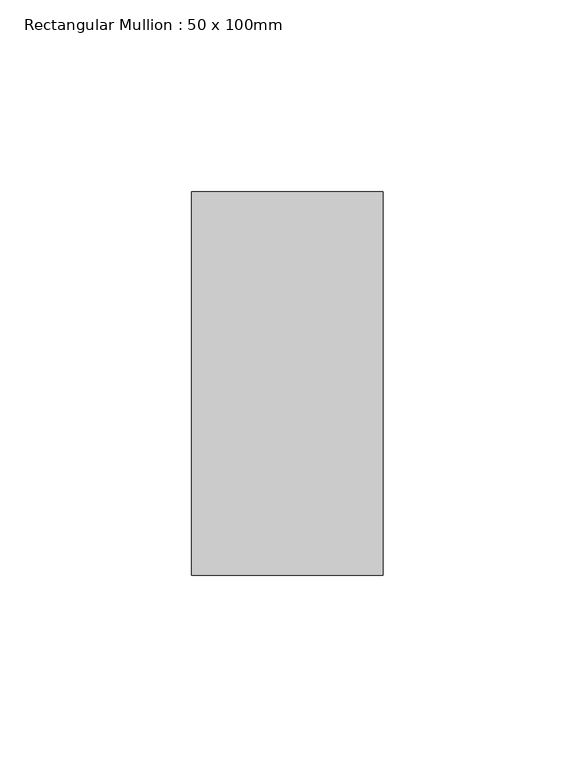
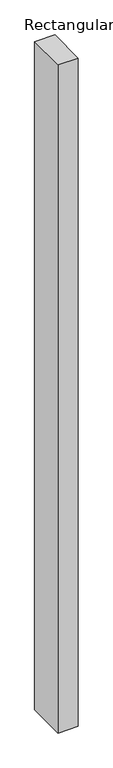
"""IFC4 building model written with IfcOpenShell, lengths in millimetres: member geometry, Rectangular Mullion : 50 x 100mm."""

from ifc_helpers import new_model, si_unit, frame, origin, place, context, project, spatial, polyline, outline, extrude, source, transform, mapped, element, save


def rectangular_mullion_50_x_100mm_af4915d7(model_context):
    return source(origin(), model_context, "Body", "SweptSolid", [
        extrude(outline(polyline([(0.0, 50.0), (0.0, -50.0), (-50.0, -50.0), (-50.0, 50.0), (0.0, 50.0)])), frame((0.0, 0.0, -1750.0), z_axis=(0.0, 0.0, 1.0), x_axis=(1.0, 0.0, 0.0)), (0.0, 0.0, 1.0), 1750.0),
    ])


if __name__ == "__main__":
    model = new_model("IFC4")
    model_context = context("Model", 3, world=origin())
    ifc_project = project(units=[si_unit("LENGTHUNIT", "METRE", prefix="MILLI")], contexts=[model_context])
    site = spatial("IfcSite", under=ifc_project)
    building = spatial("IfcBuilding", under=site)
    placement = place(None, origin())
    rectangular_mullion_50_x_100mm_shape = rectangular_mullion_50_x_100mm_af4915d7(model_context)
    element("IfcMember", 1, ObjectType="Rectangular Mullion : 50 x 100mm", at=placement, inside=building, context=model_context, shape_type="MappedRepresentation", body=[
        mapped(rectangular_mullion_50_x_100mm_shape, transform((0.0, 0.0, 0.0), x_axis=(1.0, 0.0, 0.0), y_axis=(0.0, 1.0, 0.0), z_axis=(0.0, 0.0, 1.0))),
    ])
    save(model, "model.ifc")
